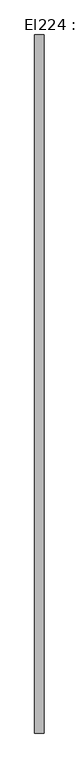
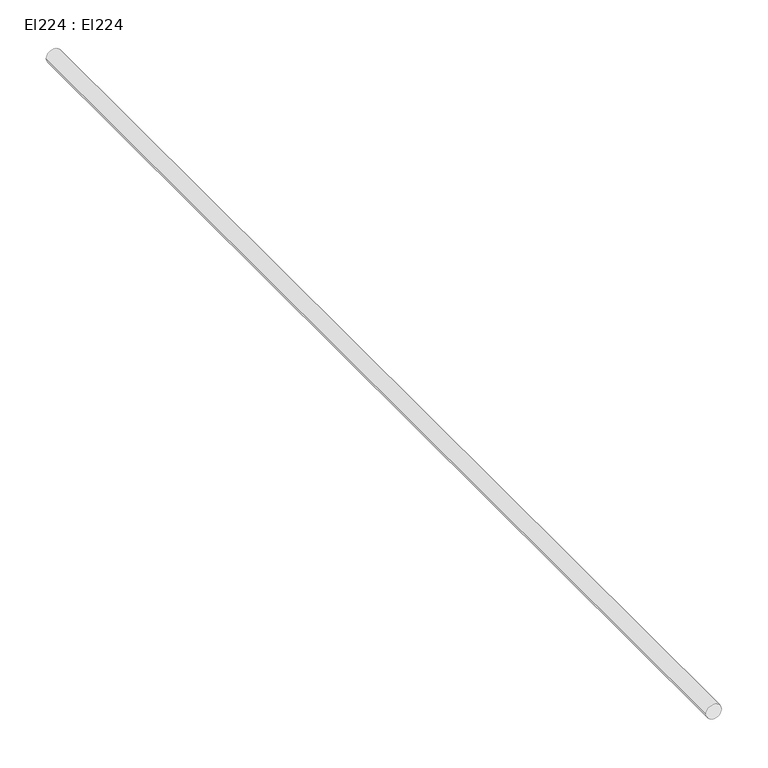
"""IFC4 building model written with IfcOpenShell, lengths in millimetres: cable carrier segment geometry, El224 : El224."""

from ifc_helpers import new_model, si_unit, point, frame, frame_2d, origin, place, context, project, spatial, circle_curve, trimmed, segment, composite_curve, outline, extrude, source, transform, mapped, element, save


def el224_el224_78fe1fa7(model_context):
    return source(origin(), model_context, "Body", "SweptSolid", [
        extrude(outline(composite_curve([segment(trimmed(circle_curve(frame_2d((2950.0, 13445.0)), 9.5), [point((2950.0, 13435.5))], [point((2950.0, 13454.5))], False, "CARTESIAN"), True, "CONTINUOUS"), segment(trimmed(circle_curve(frame_2d((2950.0, 13445.0)), 9.5), [point((2950.0, 13454.5))], [point((2950.0, 13435.5))], False, "CARTESIAN"), True, "CONTINUOUS")], self_intersect=False)), frame((0.0, 25341.295, 0.0), z_axis=(0.0, 1.0, 0.0), x_axis=(0.0, 0.0, 1.0)), (0.0, 0.0, 1.0), 1420.01),
    ])


if __name__ == "__main__":
    model = new_model("IFC4")
    model_context = context("Model", 3, world=origin())
    ifc_project = project(units=[si_unit("LENGTHUNIT", "METRE", prefix="MILLI")], contexts=[model_context])
    site = spatial("IfcSite", under=ifc_project)
    building = spatial("IfcBuilding", under=site)
    placement = place(None, origin())
    el224_el224_shape = el224_el224_78fe1fa7(model_context)
    element("IfcCableCarrierSegment", 1, ObjectType="El224 : El224", at=placement, inside=building, context=model_context, shape_type="MappedRepresentation", body=[
        mapped(el224_el224_shape, transform((0.0, 0.0, 0.0), x_axis=(1.0, 0.0, 0.0), y_axis=(0.0, 1.0, 0.0), z_axis=(0.0, 0.0, 1.0))),
    ])
    save(model, "model.ifc")
